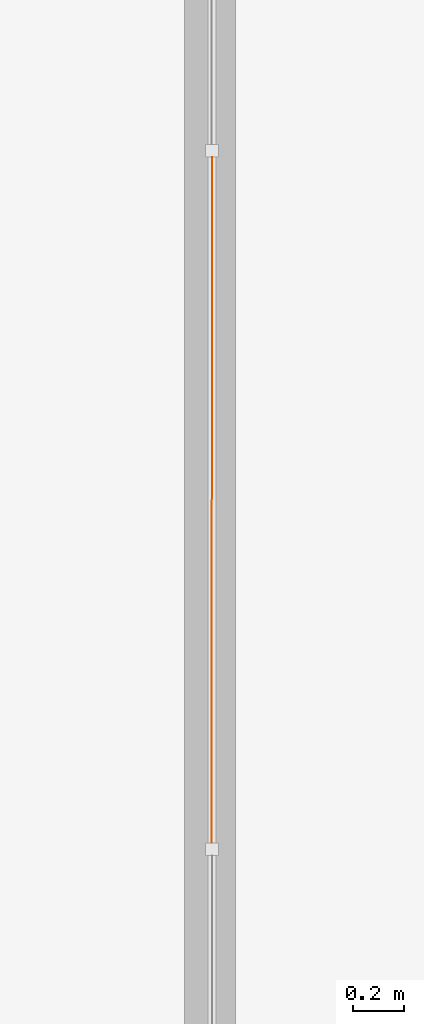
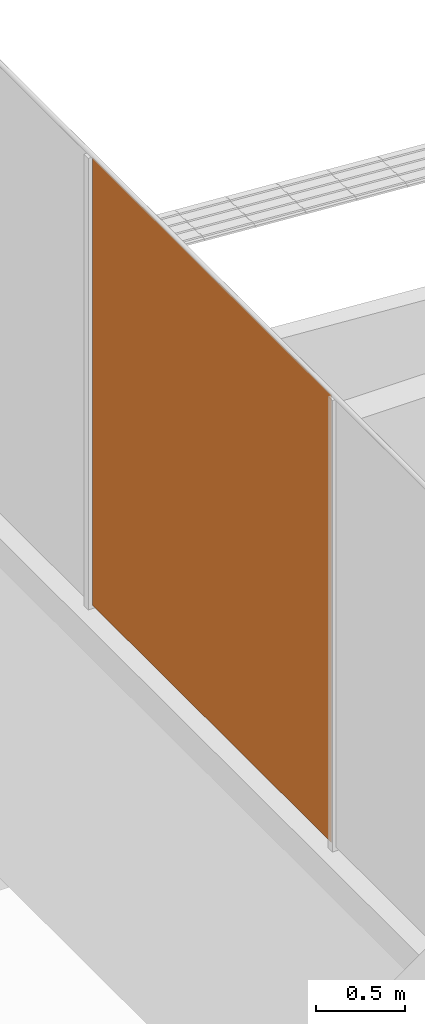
# One storey, part 157 of 237: 1 proxy.
"""IFC2X3 building model written with IfcOpenShell, lengths in millimetres."""

from ifc_helpers import new_model, entity, si_unit, converted_unit, derived_unit, money_unit, direction, frame, origin_with_axes, place, context, subcontext, project, spatial, open_shell, surface_model, source, transform, mapped, type_object, element, save


model = new_model("IFC2X3")

# Units and contexts
model_context = context("Model", 3, precision=0.01, world=origin_with_axes(), true_north=direction((0.0, 1.0)))
body_context = subcontext(model_context, "Body", "Model", "MODEL_VIEW")
ifc_project = project(units=[si_unit("LENGTHUNIT", "METRE", prefix="MILLI"), si_unit("AREAUNIT", "SQUARE_METRE"), si_unit("VOLUMEUNIT", "CUBIC_METRE"), converted_unit("PLANEANGLEUNIT", "DEGREE", entity("IfcPlaneAngleMeasure", 0.0174532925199), si_unit("PLANEANGLEUNIT", "RADIAN"), dimensions=[0, 0, 0, 0, 0, 0, 0]), money_unit("USD"), converted_unit("TIMEUNIT", "Year", entity("IfcTimeMeasure", 31556926.0), si_unit("TIMEUNIT", "SECOND"), dimensions=[0, 0, 1, 0, 0, 0, 0]), si_unit("MASSUNIT", "GRAM", prefix="KILO"), si_unit("THERMODYNAMICTEMPERATUREUNIT", "DEGREE_CELSIUS"), si_unit("LUMINOUSINTENSITYUNIT", "LUMEN"), si_unit("ENERGYUNIT", "JOULE", prefix="MEGA"), derived_unit("THERMALCONDUCTANCEUNIT", [(si_unit("POWERUNIT", "WATT"), 1), (si_unit("LENGTHUNIT", "METRE"), -1), (si_unit("THERMODYNAMICTEMPERATUREUNIT", "KELVIN"), -1)]), derived_unit("SPECIFICHEATCAPACITYUNIT", [(si_unit("ENERGYUNIT", "JOULE"), 1), (si_unit("MASSUNIT", "GRAM", prefix="KILO"), -1), (si_unit("THERMODYNAMICTEMPERATUREUNIT", "KELVIN"), -1)]), derived_unit("MASSDENSITYUNIT", [(si_unit("MASSUNIT", "GRAM", prefix="KILO"), 1), (si_unit("VOLUMEUNIT", "CUBIC_METRE"), -1)])], contexts=[model_context])

# Site, building, storey
site_placement = place(None, origin_with_axes())
site = spatial("IfcSite", under=ifc_project, at=site_placement, Name="Local", CompositionType="ELEMENT")
building_placement = place(site_placement, origin_with_axes())
building = spatial("IfcBuilding", under=site, at=building_placement, Name="Construção", CompositionType="ELEMENT")
storey_placement = place(building_placement, origin_with_axes())
storey = spatial("IfcBuildingStorey", under=building, at=storey_placement, Name="Pavimento Térreo", CompositionType="ELEMENT", Elevation=0.0)

# Proxy
building_element_proxy_type = type_object("IfcBuildingElementProxyType", Name="Tela metalica1", PredefinedType="NOTDEFINED")
shared_shape = source(origin_with_axes(), body_context, "Body", "SurfaceModel", [
    surface_model("IfcShellBasedSurfaceModel", [(2612.77479528, 0.0, 3061.09168656), (0.0, 597.005968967, 3061.09168656), (0.0, 597.005968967, 0.0), (2612.77479528, 0.0, 0.0)], [open_shell([[[0, 1, 2, 3]]])]),
])
proxy_placement = place(storey_placement, frame((87252.2916867, 30190.2274243, -3388.30219833), z_axis=(0.0, 0.0, 1.0), x_axis=(-0.222753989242, 0.974874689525, 0.0)))
element("IfcBuildingElementProxy", 1, at=proxy_placement, inside=storey, type_object=building_element_proxy_type, Name="Objeto-0044", context=body_context, shape_type="MappedRepresentation", body=[
    mapped(shared_shape, transform((0.0, 0.0, 0.0))),
])

save(model, "model.ifc")
